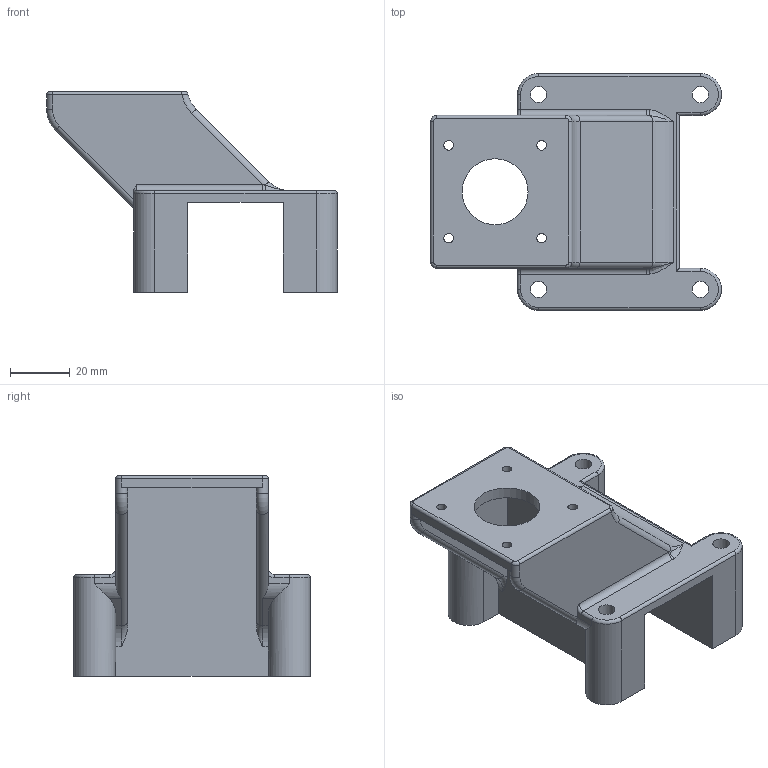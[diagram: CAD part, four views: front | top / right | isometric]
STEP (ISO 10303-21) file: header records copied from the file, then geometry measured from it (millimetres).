
FILE_DESCRIPTION( ( '' ), ' ' );
FILE_NAME( '/vol/tmp/translate-6309123489582864303/5ae2df6325234c0fd12d2f76.step', '2018-04-27T08:29:25', ( '' ), ( '' ), ' ', ' ', ' ' );
FILE_SCHEMA( ( 'AUTOMOTIVE_DESIGN { 1 0 10303 214 1 1 1 1 }' ) );
Length unit declared in the file: metre
Products named in the file (1): Part 1
Bounding box: 97 x 79 x 67 mm (x, y, z)
Volume: 98489 mm3; surface area: 35046.7 mm2
Topology: 1 solids, 1 shells, 86 faces, 223 edges, 137 vertices
Faces by surface type: cylinder 38, plane 26, torus 16, bspline 6
Full cylindrical faces by diameter (mm): 3.2 x4, 5.5 x4, 22 x1
Entity records: 4236 total; most frequent: CARTESIAN_POINT 1416, DIRECTION 458, ORIENTED_EDGE 424, EDGE_CURVE 212, AXIS2_PLACEMENT_3D 181, VERTEX_POINT 137, EDGE_LOOP 113, LINE 96
